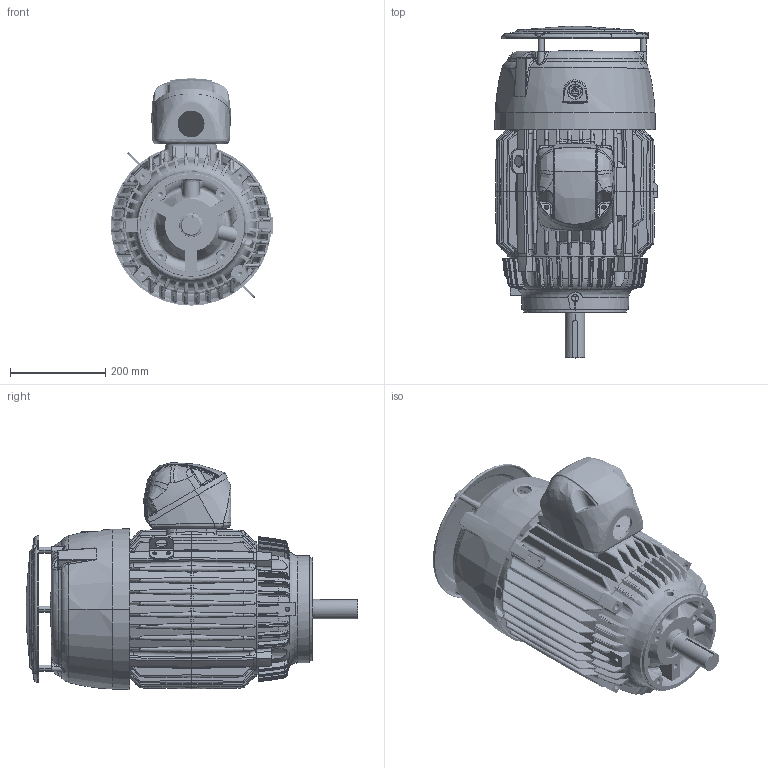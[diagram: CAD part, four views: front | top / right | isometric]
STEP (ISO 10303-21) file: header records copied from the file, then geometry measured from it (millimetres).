
FILE_DESCRIPTION((''),'2;1');
FILE_NAME('250_ASSY_ASM','2014-07-18T',('emd2341'),('Nidec Motor Corporation'),'PRO/ENGINEER BY PARAMETRIC TECHNOLOGY CORPORATION, 2013150','PRO/ENGINEER BY PARAMETRIC TECHNOLOGY CORPORATION, 2013150','');
FILE_SCHEMA(('CONFIG_CONTROL_DESIGN'));
Length unit declared in the file: inch
Products named in the file (12): 0929918-006; 0644261-001; 2022431; 0170274; 0075989-OBC; 0998662; 0561184; 0644264; 0169739-SPA; 2020253; 2005476; 250_ASSY_ASM
Assembly tree (14 placements, depth 2):
  250_ASSY_ASM
    0929918-006
    0644261-001
    2022431
    0170274
    0075989-OBC
    0998662
    0561184
    0644264
    0169739-SPA  x3
    2020253
    2005476  x2
Bounding box: 341.76 x 697.59 x 477.51 mm (x, y, z)
Volume: 12928059 mm3; surface area: 2581164.2 mm2
Topology: 16 solids, 16 shells, 4042 faces, 10052 edges, 6014 vertices
Faces by surface type: bspline 1551, plane 800, cylinder 585, torus 446, cone 428, extrusion 124, sphere 108
Entity records: 190009 total; most frequent: CARTESIAN_POINT 107871, ORIENTED_EDGE 19804, DIRECTION 13150, EDGE_CURVE 9902, VERTEX_POINT 5962, AXIS2_PLACEMENT_3D 5461, B_SPLINE_CURVE_WITH_KNOTS 4818, EDGE_LOOP 4236
